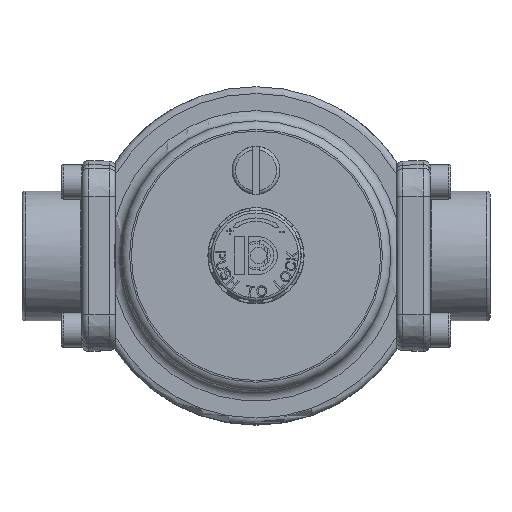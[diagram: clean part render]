
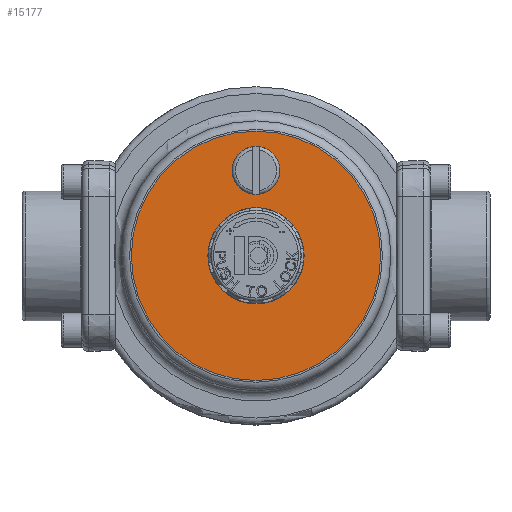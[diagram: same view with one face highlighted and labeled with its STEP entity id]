
A CAD part, top view. The second image highlights one B-rep face of the part: STEP entity #15177.
In plain terms, the highlighted planar face has unit normal (0, 0, 1) as drawn and (0, 1, 0) by its records, which use the part's own axes.
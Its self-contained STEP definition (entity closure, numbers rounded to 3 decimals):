
#1132=CIRCLE('',#16779,36.5);
#1133=CIRCLE('',#16781,14.1);
#1134=CIRCLE('',#16782,5.4);
#3838=PLANE('',#16780);
#3976=FACE_BOUND('',#5630,.T.);
#3977=FACE_BOUND('',#5631,.T.);
#4693=FACE_OUTER_BOUND('',#5629,.T.);
#5629=EDGE_LOOP('',(#13480));
#5630=EDGE_LOOP('',(#13481));
#5631=EDGE_LOOP('',(#13482));
#7328=VERTEX_POINT('',#28925);
#7329=VERTEX_POINT('',#28929);
#7330=VERTEX_POINT('',#28931);
#9417=EDGE_CURVE('',#7328,#7328,#1132,.T.);
#9418=EDGE_CURVE('',#7329,#7329,#1133,.T.);
#9419=EDGE_CURVE('',#7330,#7330,#1134,.T.);
#13480=ORIENTED_EDGE('',*,*,#9417,.F.);
#13481=ORIENTED_EDGE('',*,*,#9418,.T.);
#13482=ORIENTED_EDGE('',*,*,#9419,.T.);
#15177=ADVANCED_FACE('',(#4693,#3976,#3977),#3838,.T.);
#16779=AXIS2_PLACEMENT_3D('',#28927,#20534,#20535);
#16780=AXIS2_PLACEMENT_3D('',#28928,#20536,#20537);
#16781=AXIS2_PLACEMENT_3D('',#28930,#20538,#20539);
#16782=AXIS2_PLACEMENT_3D('',#28932,#20540,#20541);
#20534=DIRECTION('center_axis',(0.,-1.,0.));
#20535=DIRECTION('ref_axis',(-1.,0.,0.));
#20536=DIRECTION('center_axis',(0.,1.,0.));
#20537=DIRECTION('ref_axis',(0.,0.,
1.));
#20538=DIRECTION('center_axis',(0.,-1.,0.));
#20539=DIRECTION('ref_axis',(1.,0.,0.));
#20540=DIRECTION('center_axis',(0.,-1.,0.));
#20541=DIRECTION('ref_axis',(-1.,0.,0.));
#28925=CARTESIAN_POINT('',(0.,66.,36.5));
#28927=CARTESIAN_POINT('Origin',(0.,66.,0.));
#28928=CARTESIAN_POINT('Origin',(39.5,66.,0.));
#28929=CARTESIAN_POINT('',(-14.1,66.,0.));
#28930=CARTESIAN_POINT('Origin',(0.,66.,0.));
#28931=CARTESIAN_POINT('',(5.4,66.,25.));
#28932=CARTESIAN_POINT('Origin',(0.,66.,25.));
